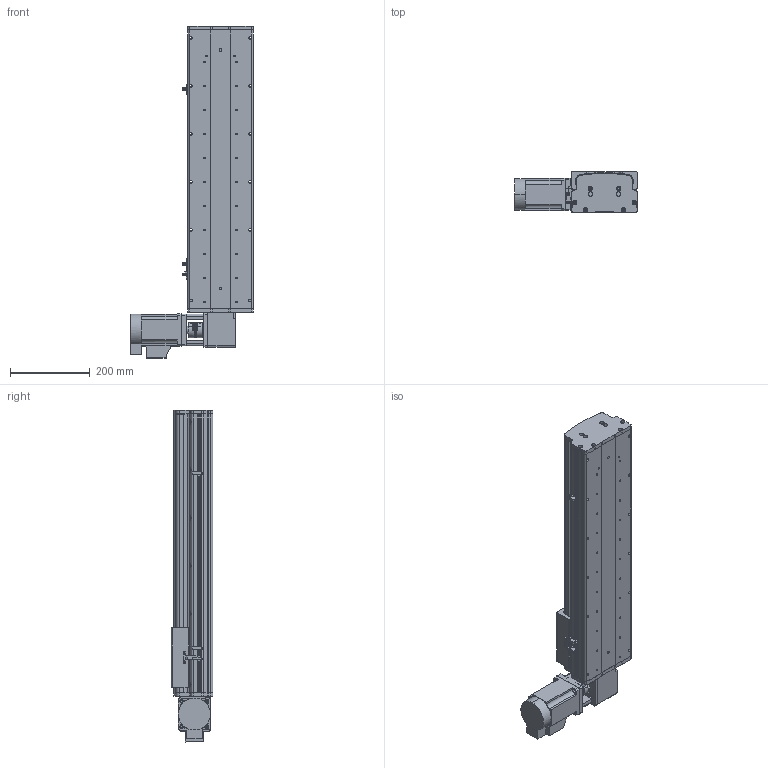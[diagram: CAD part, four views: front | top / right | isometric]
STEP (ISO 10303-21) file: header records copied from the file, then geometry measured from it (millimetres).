
FILE_DESCRIPTION (( 'STEP AP214' ), '1' );
FILE_NAME ('KSD165B-S450-MRT-CM .STEP', '2017-10-17T01:09:22', ( '微软用户' ), ( '微软中国' ), 'SwSTEP 2.0', 'SolidWorks 2014', '' );
FILE_SCHEMA (( 'AUTOMOTIVE_DESIGN' ));
Length unit declared in the file: millimetre
Products named in the file (16): KSD165模组-同步带防尘盖1-450行程-最新版; KSD165模组同步带底板-450行程-最新; 拸秶雄ん750W侜督萇儂; 165宽安装板同步带带电机座750W; C39ㄜ1419WP; U倰嫖萇假蚾璃; U倰嫖萇EEㄜSX672; 覜茼え68遵圉猾敕; KSD165模组-同步带-防撞垫2; KSD165模组同步带-防撞垫1; KSD165耀郪-ヶ傷啣1-肮祭湍; KSD165模组-后端板1-同步带; 130宽马达安装板1-带电机座750W（1）; KSD165模组-同步带滑动座-最新版; KSD165B-S450-MRT-CM  ; 165宽马达安装板同步带左-改
Assembly tree (19 placements, depth 2):
  KSD165B-S450-MRT-CM  
    KSD165模组-同步带滑动座-最新版
    130宽马达安装板1-带电机座750W（1）
    KSD165模组-后端板1-同步带
    KSD165耀郪-ヶ傷啣1-肮祭湍
    KSD165模组同步带-防撞垫1
    KSD165模组-同步带-防撞垫2
    覜茼え68遵圉猾敕
    U倰嫖萇EEㄜSX672  x3
    U倰嫖萇假蚾璃  x3
    C39ㄜ1419WP
    165宽安装板同步带带电机座750W
    拸秶雄ん750W侜督萇儂
    KSD165模组同步带底板-450行程-最新
    KSD165模组-同步带防尘盖1-450行程-最新版
    165宽马达安装板同步带左-改
Bounding box: 307.5 x 104 x 831.06 mm (x, y, z)
Volume: 5405457.2 mm3; surface area: 1196732.2 mm2
Topology: 20 solids, 21 shells, 1432 faces, 3966 edges, 2565 vertices
Faces by surface type: cylinder 765, plane 573, cone 94
Entity records: 44907 total; most frequent: CARTESIAN_POINT 9403, DIRECTION 7012, ORIENTED_EDGE 6584, EDGE_CURVE 3292, AXIS2_PLACEMENT_3D 2654, VERTEX_POINT 2157, VECTOR 1704, LINE 1704
